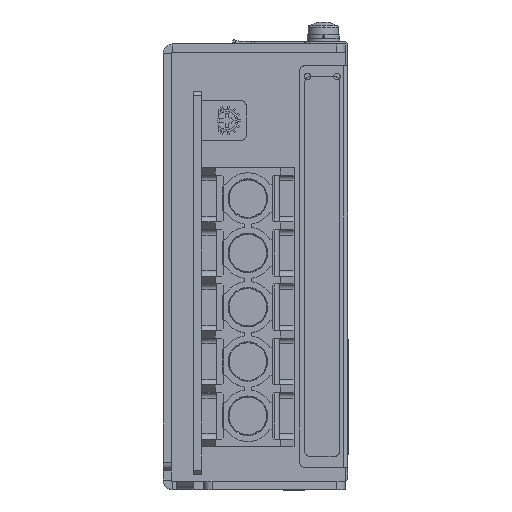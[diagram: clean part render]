
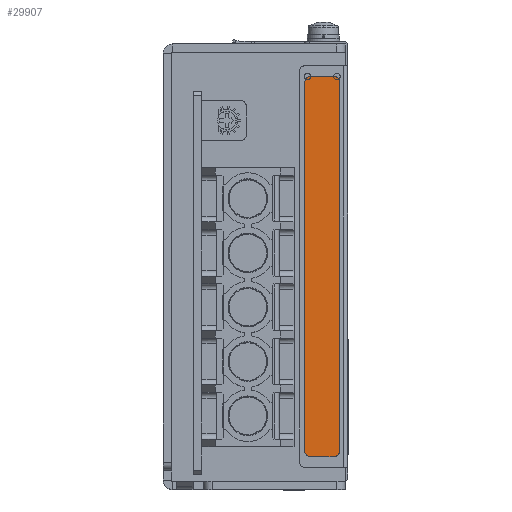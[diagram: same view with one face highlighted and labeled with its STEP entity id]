
A CAD part, top view. The second image highlights one B-rep face of the part: STEP entity #29907.
In plain terms, the highlighted planar face has unit normal (0, 0, 1).
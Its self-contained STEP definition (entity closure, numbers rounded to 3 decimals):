
#547 = AXIS2_PLACEMENT_3D ( 'NONE', #60024, #45524, #38276 ) ;
#755 = DIRECTION ( 'NONE',  ( 0., 1., 0. ) ) ;
#1022 = CARTESIAN_POINT ( 'NONE',  ( 32.5, 7.002, 0.2 ) ) ;
#2102 = AXIS2_PLACEMENT_3D ( 'NONE', #28054, #20804, #13564 ) ;
#2125 = AXIS2_PLACEMENT_3D ( 'NONE', #58145, #50897, #43618 ) ;
#3041 = CARTESIAN_POINT ( 'NONE',  ( 27.1, 76.002, 0.2 ) ) ;
#3986 = FACE_OUTER_BOUND ( 'NONE', #57845, .T. ) ;
#5614 = LINE ( 'NONE', #69159, #5954 ) ;
#5954 = VECTOR ( 'NONE', #61919, 1000. ) ;
#6304 = EDGE_CURVE ( 'NONE', #56402, #45078, #11218, .T. ) ;
#6926 = VECTOR ( 'NONE', #29154, 1000. ) ;
#7040 = ORIENTED_EDGE ( 'NONE', *, *, #6304, .F. ) ;
#8067 = DIRECTION ( 'NONE',  ( 0., 0., -1. ) ) ;
#9392 = VERTEX_POINT ( 'NONE', #12000 ) ;
#10645 = ORIENTED_EDGE ( 'NONE', *, *, #42170, .F. ) ;
#11218 = CIRCLE ( 'NONE', #547, 1. ) ;
#12000 = CARTESIAN_POINT ( 'NONE',  ( 27.1, 6.002, 0.2 ) ) ;
#12465 = VECTOR ( 'NONE', #24488, 1000. ) ;
#13564 = DIRECTION ( 'NONE',  ( 0., -1., 0. ) ) ;
#13977 = ORIENTED_EDGE ( 'NONE', *, *, #31433, .F. ) ;
#15364 = CARTESIAN_POINT ( 'NONE',  ( 31.5, 75.002, 0.2 ) ) ;
#16271 = EDGE_CURVE ( 'NONE', #9392, #59995, #47205, .T. ) ;
#18932 = VERTEX_POINT ( 'NONE', #67252 ) ;
#20804 = DIRECTION ( 'NONE',  ( 0., 0., -1. ) ) ;
#21619 = CARTESIAN_POINT ( 'NONE',  ( 32.5, 75.002, 0.2 ) ) ;
#23982 = EDGE_CURVE ( 'NONE', #59995, #56402, #5614, .T. ) ;
#24488 = DIRECTION ( 'NONE',  ( -1., 0., 0. ) ) ;
#27225 = CARTESIAN_POINT ( 'NONE',  ( 26.1, 7.002, 0.2 ) ) ;
#28054 = CARTESIAN_POINT ( 'NONE',  ( 31.5, 7.002, 0.2 ) ) ;
#29154 = DIRECTION ( 'NONE',  ( 1., 0., 0. ) ) ;
#29907 = ADVANCED_FACE ( 'NONE', ( #3986 ), #65345, .F. ) ;
#30577 = ORIENTED_EDGE ( 'NONE', *, *, #16271, .F. ) ;
#31433 = EDGE_CURVE ( 'NONE', #18932, #34272, #45432, .T. ) ;
#31763 = CARTESIAN_POINT ( 'NONE',  ( 33., 6.002, 0.2 ) ) ;
#34272 = VERTEX_POINT ( 'NONE', #21619 ) ;
#36429 = CARTESIAN_POINT ( 'NONE',  ( 33., 76.002, 0.2 ) ) ;
#38276 = DIRECTION ( 'NONE',  ( 0., -1., 0. ) ) ;
#39042 = LINE ( 'NONE', #31763, #12465 ) ;
#40970 = ORIENTED_EDGE ( 'NONE', *, *, #44263, .F. ) ;
#41852 = CARTESIAN_POINT ( 'NONE',  ( 26.1, 75.002, 0.2 ) ) ;
#41870 = EDGE_CURVE ( 'NONE', #45078, #18932, #50950, .T. ) ;
#42170 = EDGE_CURVE ( 'NONE', #34272, #67459, #61490, .T. ) ;
#43618 = DIRECTION ( 'NONE',  ( 0., 1., 0. ) ) ;
#44263 = EDGE_CURVE ( 'NONE', #67459, #49886, #70483, .T. ) ;
#45078 = VERTEX_POINT ( 'NONE', #3041 ) ;
#45432 = CIRCLE ( 'NONE', #50309, 1. ) ;
#45524 = DIRECTION ( 'NONE',  ( 0., 0., -1. ) ) ;
#47028 = DIRECTION ( 'NONE',  ( 0., -1., 0. ) ) ;
#47114 = AXIS2_PLACEMENT_3D ( 'NONE', #69003, #54580, #47285 ) ;
#47205 = CIRCLE ( 'NONE', #47114, 1. ) ;
#47285 = DIRECTION ( 'NONE',  ( 0., -1., 0. ) ) ;
#48627 = VECTOR ( 'NONE', #47028, 1000. ) ;
#49886 = VERTEX_POINT ( 'NONE', #55197 ) ;
#50309 = AXIS2_PLACEMENT_3D ( 'NONE', #15364, #8067, #755 ) ;
#50897 = DIRECTION ( 'NONE',  ( 0., 0., -1. ) ) ;
#50950 = LINE ( 'NONE', #36429, #6926 ) ;
#54303 = CARTESIAN_POINT ( 'NONE',  ( 32.5, 76.002, 0.2 ) ) ;
#54580 = DIRECTION ( 'NONE',  ( 0., 0., -1. ) ) ;
#55197 = CARTESIAN_POINT ( 'NONE',  ( 31.5, 6.002, 0.2 ) ) ;
#56402 = VERTEX_POINT ( 'NONE', #41852 ) ;
#57845 = EDGE_LOOP ( 'NONE', ( #40970, #10645, #13977, #64568, #7040, #65342, #30577, #65569 ) ) ;
#58145 = CARTESIAN_POINT ( 'NONE',  ( 33., 76.002, 0.2 ) ) ;
#59995 = VERTEX_POINT ( 'NONE', #27225 ) ;
#60024 = CARTESIAN_POINT ( 'NONE',  ( 27.1, 75.002, 0.2 ) ) ;
#61490 = LINE ( 'NONE', #54303, #48627 ) ;
#61919 = DIRECTION ( 'NONE',  ( 0., 1., 0. ) ) ;
#64568 = ORIENTED_EDGE ( 'NONE', *, *, #41870, .F. ) ;
#65342 = ORIENTED_EDGE ( 'NONE', *, *, #23982, .F. ) ;
#65345 = PLANE ( 'NONE',  #2125 ) ;
#65569 = ORIENTED_EDGE ( 'NONE', *, *, #67996, .F. ) ;
#67252 = CARTESIAN_POINT ( 'NONE',  ( 31.5, 76.002, 0.2 ) ) ;
#67459 = VERTEX_POINT ( 'NONE', #1022 ) ;
#67996 = EDGE_CURVE ( 'NONE', #49886, #9392, #39042, .T. ) ;
#69003 = CARTESIAN_POINT ( 'NONE',  ( 27.1, 7.002, 0.2 ) ) ;
#69159 = CARTESIAN_POINT ( 'NONE',  ( 26.1, 76.002, 0.2 ) ) ;
#70483 = CIRCLE ( 'NONE', #2102, 1. ) ;
